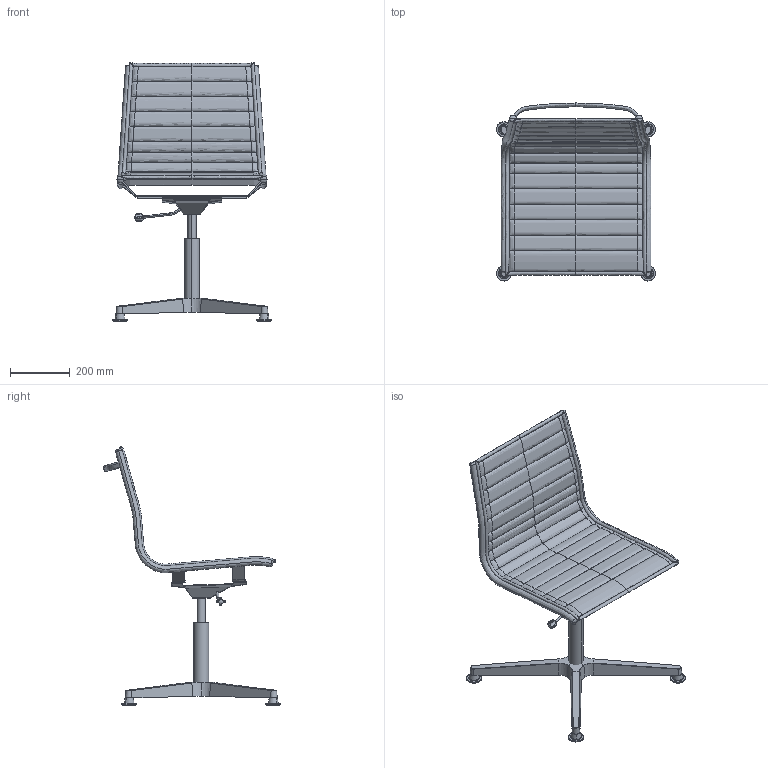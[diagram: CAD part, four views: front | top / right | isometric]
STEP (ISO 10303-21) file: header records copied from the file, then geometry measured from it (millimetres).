
FILE_DESCRIPTION(/* description */ (''),/* implementation_level */ '2;1');
FILE_NAME(/* name */ 'FLY723~1',/* time_stamp */ '2017-10-19T14:54:32+02:00',/* author */ (''),/* organization */ (''),/* preprocessor_version */ 'ST-DEVELOPER v15',/* originating_system */ '',/* authorisation */ '');
FILE_SCHEMA (('CONFIG_CONTROL_DESIGN'));
Length unit declared in the file: millimetre
Products named in the file (1): Document
Bounding box: 530.82 x 592.29 x 861.82 mm (x, y, z)
Volume: 1241815 mm3; surface area: 1423415.6 mm2
Topology: 9 solids, 24 shells, 351 faces, 839 edges, 499 vertices
Faces by surface type: bspline 300, plane 51
Entity records: 24103 total; most frequent: CARTESIAN_POINT 19232, ORIENTED_EDGE 1530, EDGE_CURVE 820, B_SPLINE_CURVE_WITH_KNOTS 531, VERTEX_POINT 493, ADVANCED_FACE 351, FACE_OUTER_BOUND 351, EDGE_LOOP 351
